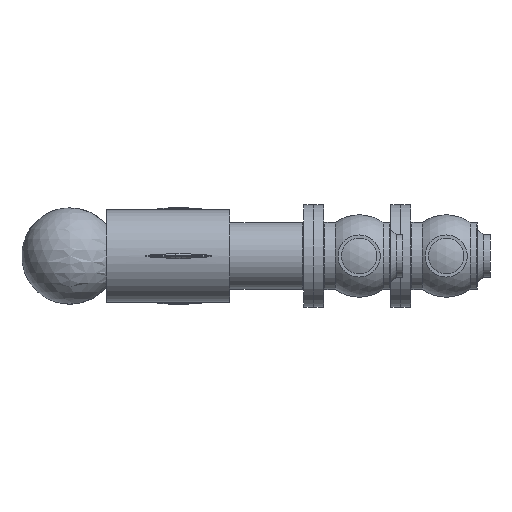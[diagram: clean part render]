
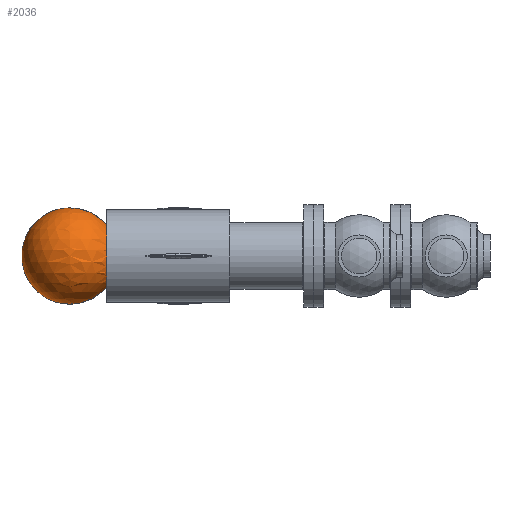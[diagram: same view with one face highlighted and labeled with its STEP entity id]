
A CAD part, left-side view. The second image highlights one B-rep face of the part: STEP entity #2036.
In plain terms, the highlighted spherical face has radius 72.5 mm.
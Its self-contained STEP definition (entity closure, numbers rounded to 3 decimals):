
#123=SPHERICAL_SURFACE('',#2372,72.5);
#372=FACE_BOUND('',#565,.T.);
#437=FACE_OUTER_BOUND('',#564,.T.);
#564=EDGE_LOOP('',(#1607,#1608));
#565=EDGE_LOOP('',(#1609));
#718=CIRCLE('',#2373,72.5);
#719=CIRCLE('',#2374,46.648);
#943=VERTEX_POINT('',#3916);
#944=VERTEX_POINT('',#3917);
#945=VERTEX_POINT('',#3919);
#1194=EDGE_CURVE('',#943,#944,#718,.T.);
#1195=EDGE_CURVE('',#945,#945,#719,.T.);
#1607=ORIENTED_EDGE('',*,*,#1194,.T.);
#1608=ORIENTED_EDGE('',*,*,#1194,.F.);
#1609=ORIENTED_EDGE('',*,*,#1195,.F.);
#2036=ADVANCED_FACE('',(#437,#372),#123,.T.);
#2372=AXIS2_PLACEMENT_3D('',#3915,#2860,#2861);
#2373=AXIS2_PLACEMENT_3D('',#3918,#2862,#2863);
#2374=AXIS2_PLACEMENT_3D('',#3920,#2864,#2865);
#2860=DIRECTION('center_axis',(0.,0.,1.));
#2861=DIRECTION('ref_axis',(1.,0.,0.));
#2862=DIRECTION('center_axis',(0.,-1.,0.));
#2863=DIRECTION('ref_axis',(-1.,0.,0.));
#2864=DIRECTION('center_axis',(0.,-1.,0.));
#2865=DIRECTION('ref_axis',(1.,0.,0.));
#3915=CARTESIAN_POINT('Origin',(150.,266.5,0.));
#3916=CARTESIAN_POINT('',(150.,266.5,72.5));
#3917=CARTESIAN_POINT('',(150.,266.5,-72.5));
#3918=CARTESIAN_POINT('Origin',(150.,266.5,0.));
#3919=CARTESIAN_POINT('',(196.648,211.,0.));
#3920=CARTESIAN_POINT('Origin',(150.,211.,0.));
